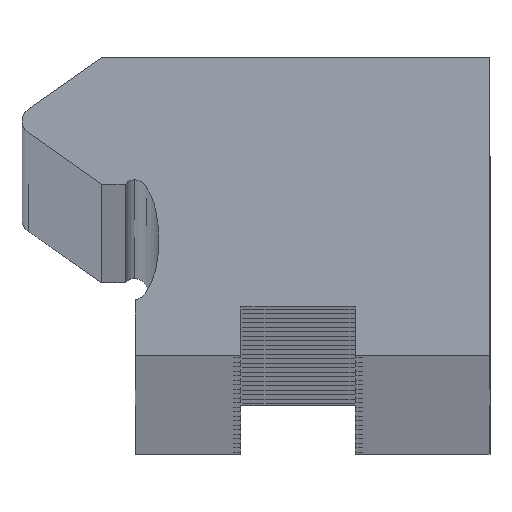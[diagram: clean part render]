
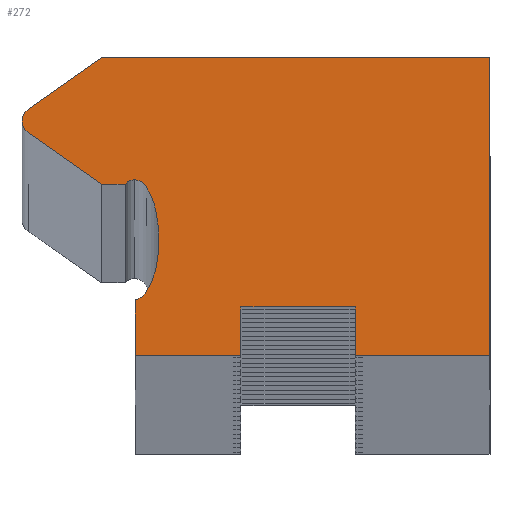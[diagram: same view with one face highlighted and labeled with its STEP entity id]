
A CAD part, top view. The second image highlights one B-rep face of the part: STEP entity #272.
In plain terms, the highlighted planar face has unit normal (0, 0, 1).
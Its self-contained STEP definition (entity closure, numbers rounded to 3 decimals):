
#272=ADVANCED_FACE('',(#712),#713,.F.);
#712=FACE_OUTER_BOUND('',#1152,.T.);
#713=PLANE('',#1153);
#1152=EDGE_LOOP('',(#2901,#2902,#2903,#2904,#2905,#2906,#2907,#2908,#2909,#2910,#2911,#2912,#2913,#2914,#2915,#2916,#2917,#2918,#2919,#2920));
#1153=AXIS2_PLACEMENT_3D('',#2921,#2922,#2923);
#2901=ORIENTED_EDGE('',*,*,#3511,.F.);
#2902=ORIENTED_EDGE('',*,*,#2929,.F.);
#2903=ORIENTED_EDGE('',*,*,#3469,.F.);
#2904=ORIENTED_EDGE('',*,*,#3472,.F.);
#2905=ORIENTED_EDGE('',*,*,#3475,.F.);
#2906=ORIENTED_EDGE('',*,*,#3478,.T.);
#2907=ORIENTED_EDGE('',*,*,#3481,.T.);
#2908=ORIENTED_EDGE('',*,*,#3484,.T.);
#2909=ORIENTED_EDGE('',*,*,#3485,.T.);
#2910=ORIENTED_EDGE('',*,*,#2927,.T.);
#2911=ORIENTED_EDGE('',*,*,#3489,.T.);
#2912=ORIENTED_EDGE('',*,*,#3492,.T.);
#2913=ORIENTED_EDGE('',*,*,#3495,.F.);
#2914=ORIENTED_EDGE('',*,*,#3497,.F.);
#2915=ORIENTED_EDGE('',*,*,#3500,.F.);
#2916=ORIENTED_EDGE('',*,*,#3502,.F.);
#2917=ORIENTED_EDGE('',*,*,#3503,.F.);
#2918=ORIENTED_EDGE('',*,*,#3249,.F.);
#2919=ORIENTED_EDGE('',*,*,#3506,.F.);
#2920=ORIENTED_EDGE('',*,*,#3509,.F.);
#2921=CARTESIAN_POINT('',(-0.523,5.331,1976.0));
#2922=DIRECTION('',(0.,0.0,-1.0));
#2923=DIRECTION('',(-1.0,0.0,0.));
#2927=EDGE_CURVE('',#3513,#3517,#3519,.T.);
#2929=EDGE_CURVE('',#3520,#3523,#3524,.T.);
#3249=EDGE_CURVE('',#4135,#4137,#4138,.T.);
#3469=EDGE_CURVE('',#4424,#3520,#4426,.T.);
#3472=EDGE_CURVE('',#4429,#4424,#4431,.T.);
#3475=EDGE_CURVE('',#4434,#4429,#4436,.T.);
#3478=EDGE_CURVE('',#4434,#4439,#4441,.T.);
#3481=EDGE_CURVE('',#4439,#4444,#4446,.T.);
#3484=EDGE_CURVE('',#4444,#4449,#4451,.T.);
#3485=EDGE_CURVE('',#4449,#3513,#4452,.T.);
#3489=EDGE_CURVE('',#3517,#4456,#4458,.T.);
#3492=EDGE_CURVE('',#4456,#4461,#4463,.T.);
#3495=EDGE_CURVE('',#4466,#4461,#4468,.T.);
#3497=EDGE_CURVE('',#4469,#4466,#4471,.T.);
#3500=EDGE_CURVE('',#4473,#4469,#4475,.T.);
#3502=EDGE_CURVE('',#4476,#4473,#4478,.T.);
#3503=EDGE_CURVE('',#4137,#4476,#4479,.T.);
#3506=EDGE_CURVE('',#4482,#4135,#4484,.T.);
#3509=EDGE_CURVE('',#4487,#4482,#4489,.T.);
#3511=EDGE_CURVE('',#3523,#4487,#4491,.T.);
#3513=VERTEX_POINT('',#4493);
#3517=VERTEX_POINT('',#4498);
#3519=CIRCLE('',#4501,4.962);
#3520=VERTEX_POINT('',#4502);
#3523=VERTEX_POINT('',#4506);
#3524=CIRCLE('',#4507,0.5);
#4135=VERTEX_POINT('',#5276);
#4137=VERTEX_POINT('',#5279);
#4138=LINE('',#5280,#5281);
#4424=VERTEX_POINT('',#5679);
#4426=CIRCLE('',#5682,0.5);
#4429=VERTEX_POINT('',#5686);
#4431=LINE('',#5689,#5690);
#4434=VERTEX_POINT('',#5694);
#4436=LINE('',#5697,#5698);
#4439=VERTEX_POINT('',#5701);
#4441=CIRCLE('',#5704,0.478);
#4444=VERTEX_POINT('',#5707);
#4446=CIRCLE('',#5710,0.507);
#4449=VERTEX_POINT('',#5713);
#4451=CIRCLE('',#5716,2.162);
#4452=CIRCLE('',#5717,4.962);
#4456=VERTEX_POINT('',#5721);
#4458=CIRCLE('',#5724,2.589);
#4461=VERTEX_POINT('',#5727);
#4463=CIRCLE('',#5730,0.581);
#4466=VERTEX_POINT('',#5734);
#4468=LINE('',#5737,#5738);
#4469=VERTEX_POINT('',#5739);
#4471=LINE('',#5742,#5743);
#4473=VERTEX_POINT('',#5746);
#4475=LINE('',#5749,#5750);
#4476=VERTEX_POINT('',#5751);
#4478=LINE('',#5754,#5755);
#4479=LINE('',#5756,#5757);
#4482=VERTEX_POINT('',#5761);
#4484=LINE('',#5764,#5765);
#4487=VERTEX_POINT('',#5769);
#4489=LINE('',#5772,#5773);
#4491=LINE('',#5776,#5777);
#4493=CARTESIAN_POINT('',(-4.869,4.047,1976.0));
#4498=CARTESIAN_POINT('',(-4.911,3.404,1976.0));
#4501=AXIS2_PLACEMENT_3D('',#5783,#5784,#5785);
#4502=CARTESIAN_POINT('',(-9.648,8.2,1976.0));
#4506=CARTESIAN_POINT('',(-9.435,8.61,1976.0));
#4507=AXIS2_PLACEMENT_3D('',#5787,#5788,#5789);
#5276=CARTESIAN_POINT('',(6.7,0.0,1976.0));
#5279=CARTESIAN_POINT('',(2.,0.0,1976.0));
#5280=CARTESIAN_POINT('',(6.7,0.0,1976.0));
#5281=VECTOR('',#6429,1.0);
#5679=CARTESIAN_POINT('',(-9.435,7.79,1976.0));
#5682=AXIS2_PLACEMENT_3D('',#6861,#6862,#6863);
#5686=CARTESIAN_POINT('',(-6.864,5.99,1976.0));
#5689=CARTESIAN_POINT('',(-6.864,5.99,1976.0));
#5690=VECTOR('',#6866,1.0);
#5694=CARTESIAN_POINT('',(-6.045,5.99,1976.0));
#5697=CARTESIAN_POINT('',(-6.045,5.99,1976.0));
#5698=VECTOR('',#6869,1.0);
#5701=CARTESIAN_POINT('',(-5.72,6.15,1976.0));
#5704=AXIS2_PLACEMENT_3D('',#6874,#6875,#6876);
#5707=CARTESIAN_POINT('',(-5.313,5.894,1976.0));
#5710=AXIS2_PLACEMENT_3D('',#6881,#6882,#6883);
#5713=CARTESIAN_POINT('',(-4.957,4.976,1976.0));
#5716=AXIS2_PLACEMENT_3D('',#6888,#6889,#6890);
#5717=AXIS2_PLACEMENT_3D('',#6891,#6892,#6893);
#5721=CARTESIAN_POINT('',(-5.347,2.163,1976.0));
#5724=AXIS2_PLACEMENT_3D('',#6901,#6902,#6903);
#5727=CARTESIAN_POINT('',(-5.7,1.951,1976.0));
#5730=AXIS2_PLACEMENT_3D('',#6908,#6909,#6910);
#5734=CARTESIAN_POINT('',(-5.7,0.0,1976.0));
#5737=CARTESIAN_POINT('',(-5.7,0.0,1976.0));
#5738=VECTOR('',#6913,1.0);
#5739=CARTESIAN_POINT('',(-2.,0.0,1976.0));
#5742=CARTESIAN_POINT('',(-2.,0.0,1976.0));
#5743=VECTOR('',#6915,1.0);
#5746=CARTESIAN_POINT('',(-2.,1.7,1976.0));
#5749=CARTESIAN_POINT('',(-2.,1.7,1976.0));
#5750=VECTOR('',#6918,1.0);
#5751=CARTESIAN_POINT('',(2.,1.7,1976.0));
#5754=CARTESIAN_POINT('',(2.,1.7,1976.0));
#5755=VECTOR('',#6920,1.0);
#5756=CARTESIAN_POINT('',(2.,0.0,1976.0));
#5757=VECTOR('',#6921,1.0);
#5761=CARTESIAN_POINT('',(6.7,10.41,1976.0));
#5764=CARTESIAN_POINT('',(6.7,10.41,1976.0));
#5765=VECTOR('',#6924,1.0);
#5769=CARTESIAN_POINT('',(-6.864,10.41,1976.0));
#5772=CARTESIAN_POINT('',(-6.864,10.41,1976.0));
#5773=VECTOR('',#6927,1.0);
#5776=CARTESIAN_POINT('',(-9.435,8.61,1976.0));
#5777=VECTOR('',#6929,1.0);
#5783=CARTESIAN_POINT('',(-9.831,4.047,1976.0));
#5784=DIRECTION('',(0.,0.0,-1.0));
#5785=DIRECTION('',(-1.0,0.0,0.));
#5787=CARTESIAN_POINT('',(-9.148,8.2,1976.0));
#5788=DIRECTION('',(0.,0.0,-1.0));
#5789=DIRECTION('',(-1.0,0.0,0.));
#6429=DIRECTION('',(-1.0,0.0,0.));
#6861=CARTESIAN_POINT('',(-9.148,8.2,1976.0));
#6862=DIRECTION('',(0.,0.0,-1.0));
#6863=DIRECTION('',(-1.0,0.0,0.));
#6866=DIRECTION('',(-0.819,0.574,0.));
#6869=DIRECTION('',(-1.0,0.0,0.));
#6874=CARTESIAN_POINT('',(-5.687,5.673,1976.0));
#6875=DIRECTION('',(0.,0.0,-1.0));
#6876=DIRECTION('',(-1.0,0.0,0.));
#6881=CARTESIAN_POINT('',(-5.755,5.644,1976.0));
#6882=DIRECTION('',(0.,0.0,-1.0));
#6883=DIRECTION('',(-1.0,0.0,0.));
#6888=CARTESIAN_POINT('',(-7.098,4.674,1976.0));
#6889=DIRECTION('',(0.,0.0,-1.0));
#6890=DIRECTION('',(-1.0,0.0,0.));
#6891=CARTESIAN_POINT('',(-9.831,4.047,1976.0));
#6892=DIRECTION('',(0.,0.0,-1.0));
#6893=DIRECTION('',(-1.0,0.0,0.));
#6901=CARTESIAN_POINT('',(-7.492,3.613,1976.0));
#6902=DIRECTION('',(0.,0.0,-1.0));
#6903=DIRECTION('',(-1.0,0.0,0.));
#6908=CARTESIAN_POINT('',(-5.803,2.522,1976.0));
#6909=DIRECTION('',(0.,0.0,-1.0));
#6910=DIRECTION('',(-1.0,0.0,0.));
#6913=DIRECTION('',(0.0,1.0,0.0));
#6915=DIRECTION('',(-1.0,0.0,0.));
#6918=DIRECTION('',(0.0,-1.0,-0.0));
#6920=DIRECTION('',(-1.0,0.0,0.));
#6921=DIRECTION('',(0.0,1.0,0.0));
#6924=DIRECTION('',(0.0,-1.0,-0.0));
#6927=DIRECTION('',(1.0,0.0,0.));
#6929=DIRECTION('',(0.819,0.574,0.));
